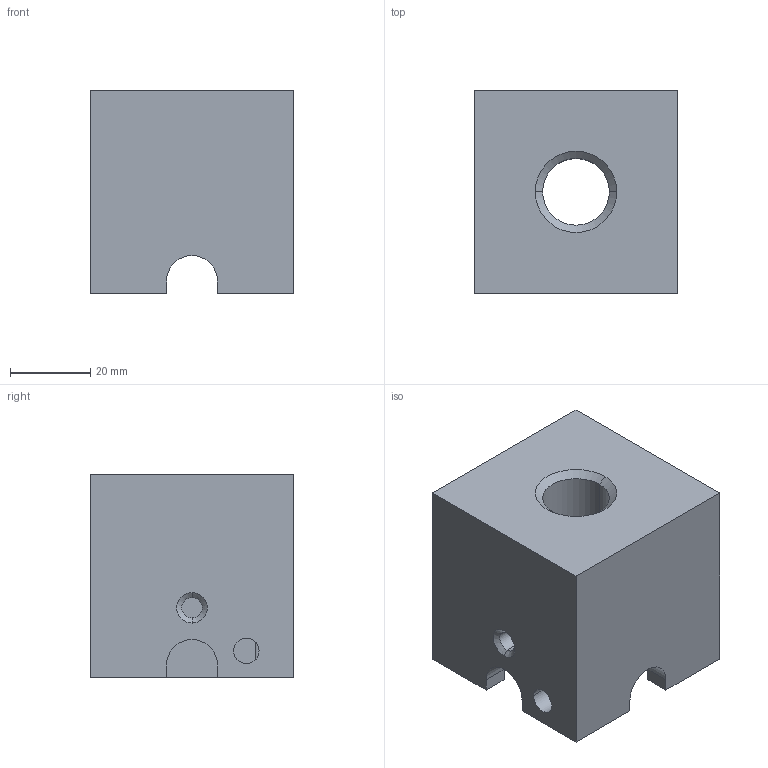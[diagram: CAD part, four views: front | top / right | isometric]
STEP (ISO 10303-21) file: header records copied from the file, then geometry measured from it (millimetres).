
FILE_DESCRIPTION (( 'STEP AP203' ), '1' );
FILE_NAME ('269-18-102.STEP', '2020-03-02T21:37:58', ( '' ), ( '' ), 'SwSTEP 2.0', 'SolidWorks 2017', '' );
FILE_SCHEMA (( 'CONFIG_CONTROL_DESIGN' ));
Length unit declared in the file: inch
Products named in the file (1): 269-18-102
Bounding box: 50.8 x 50.8 x 50.8 mm (x, y, z)
Volume: 83539.9 mm3; surface area: 20847.4 mm2
Topology: 1 solids, 1 shells, 40 faces, 113 edges, 74 vertices
Faces by surface type: plane 19, cylinder 17, cone 4
Entity records: 1424 total; most frequent: CARTESIAN_POINT 262, DIRECTION 231, ORIENTED_EDGE 226, EDGE_CURVE 113, AXIS2_PLACEMENT_3D 79, VERTEX_POINT 74, LINE 73, VECTOR 73
